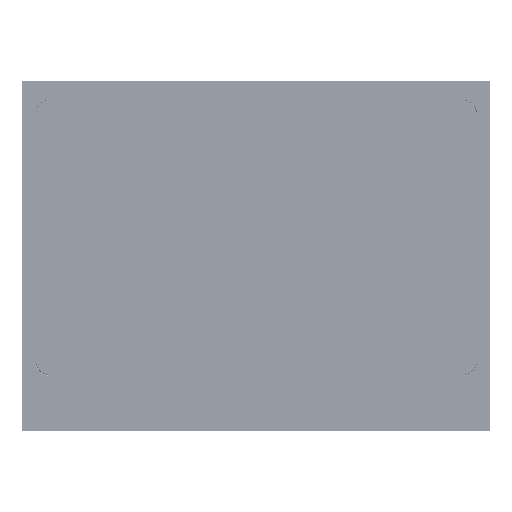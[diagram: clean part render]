
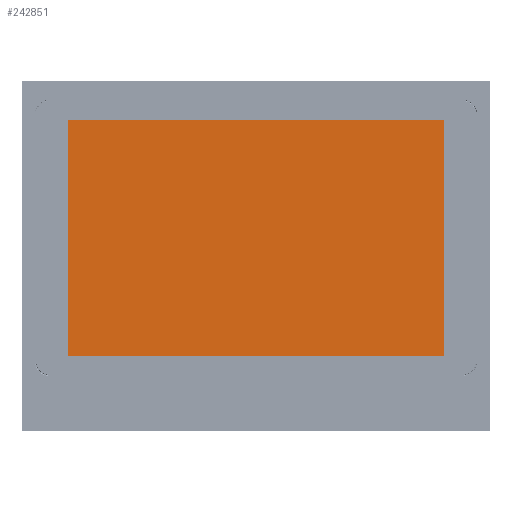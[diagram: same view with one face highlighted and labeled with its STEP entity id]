
A CAD part, top view. The second image highlights one B-rep face of the part: STEP entity #242851.
In plain terms, the highlighted planar face has unit normal (0, 0, 1).
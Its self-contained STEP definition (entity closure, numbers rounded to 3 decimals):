
#8390=FACE_OUTER_BOUND('',#20881,.T.);
#20881=EDGE_LOOP('',(#154080,#154081,#154082,#154083));
#39457=LINE('',#339111,#66680);
#39458=LINE('',#339113,#66681);
#39459=LINE('',#339115,#66682);
#39460=LINE('',#339116,#66683);
#66680=VECTOR('',#273928,10.);
#66681=VECTOR('',#273929,10.);
#66682=VECTOR('',#273930,10.);
#66683=VECTOR('',#273931,10.);
#94159=VERTEX_POINT('',#339109);
#94160=VERTEX_POINT('',#339110);
#94161=VERTEX_POINT('',#339112);
#94162=VERTEX_POINT('',#339114);
#117765=EDGE_CURVE('',#94159,#94160,#39457,.T.);
#117766=EDGE_CURVE('',#94160,#94161,#39458,.T.);
#117767=EDGE_CURVE('',#94161,#94162,#39459,.T.);
#117768=EDGE_CURVE('',#94162,#94159,#39460,.T.);
#154080=ORIENTED_EDGE('',*,*,#117765,.T.);
#154081=ORIENTED_EDGE('',*,*,#117766,.T.);
#154082=ORIENTED_EDGE('',*,*,#117767,.T.);
#154083=ORIENTED_EDGE('',*,*,#117768,.T.);
#222233=PLANE('',#255996);
#242851=ADVANCED_FACE('',(#8390),#222233,.F.);
#255996=AXIS2_PLACEMENT_3D('',#339108,#273926,#273927);
#273926=DIRECTION('center_axis',(0.,0.,
-1.));
#273927=DIRECTION('ref_axis',(-1.,0.,0.));
#273928=DIRECTION('',(-1.,0.,0.));
#273929=DIRECTION('',(0.,-1.,0.));
#273930=DIRECTION('',(1.,0.,0.));
#273931=DIRECTION('',(0.,1.,0.));
#339108=CARTESIAN_POINT('Origin',(0.,-13.05,
6.201));
#339109=CARTESIAN_POINT('',(166.425,91.275,6.201));
#339110=CARTESIAN_POINT('',(-166.425,91.275,6.201));
#339111=CARTESIAN_POINT('',(83.213,91.275,6.201));
#339112=CARTESIAN_POINT('',(-166.425,-117.375,6.201));
#339113=CARTESIAN_POINT('',(-166.425,39.112,6.201));
#339114=CARTESIAN_POINT('',(166.425,-117.375,6.201));
#339115=CARTESIAN_POINT('',(-83.213,-117.375,6.201));
#339116=CARTESIAN_POINT('',(166.425,-65.213,6.201));
